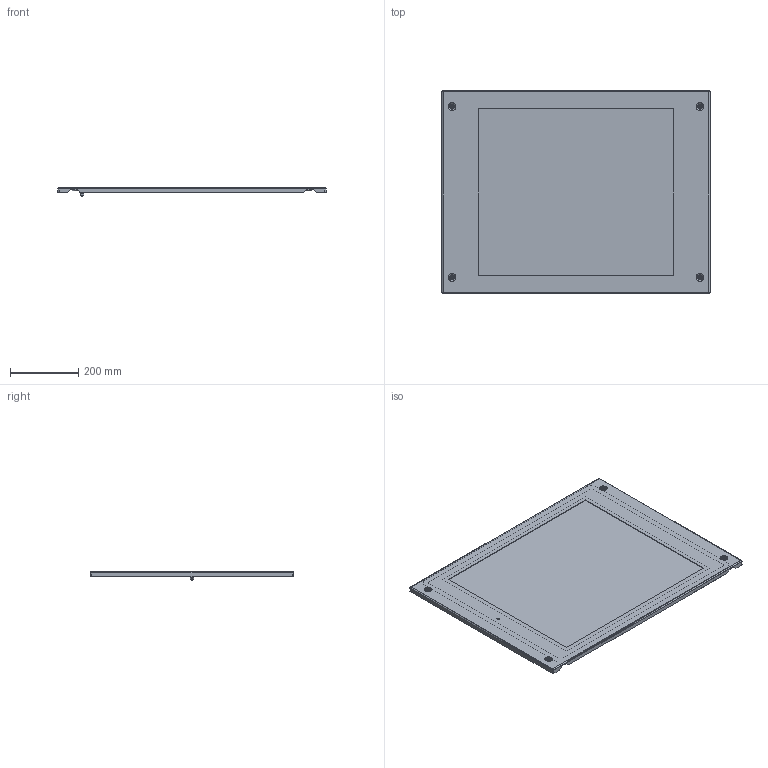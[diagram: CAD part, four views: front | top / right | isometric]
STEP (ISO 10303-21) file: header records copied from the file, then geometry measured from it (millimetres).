
FILE_DESCRIPTION (( 'STEP AP203' ), '1' );
FILE_NAME ('DP 60.80 V Ïàíåëü ñåêöèîííàÿ îáçîðíàÿ.STEP', '2014-06-30T08:30:11', ( 'System' ), ( '' ), 'SwSTEP 2.0', 'SolidWorks 2012', '' );
FILE_SCHEMA (( 'CONFIG_CONTROL_DESIGN' ));
Length unit declared in the file: millimetre
Products named in the file (1): DP 60.80 V Ïàíåëü ñåêöèîííàÿ îáçîðíàÿ
Bounding box: 785 x 594 x 26 mm (x, y, z)
Volume: 1915279.1 mm3; surface area: 1119113.4 mm2
Topology: 4 solids, 4 shells, 176 faces, 401 edges, 240 vertices
Faces by surface type: plane 61, cylinder 43, torus 40, cone 24, sphere 8
Entity records: 4988 total; most frequent: DIRECTION 955, CARTESIAN_POINT 810, ORIENTED_EDGE 786, EDGE_CURVE 393, AXIS2_PLACEMENT_3D 385, VERTEX_POINT 240, CIRCLE 208, EDGE_LOOP 201
